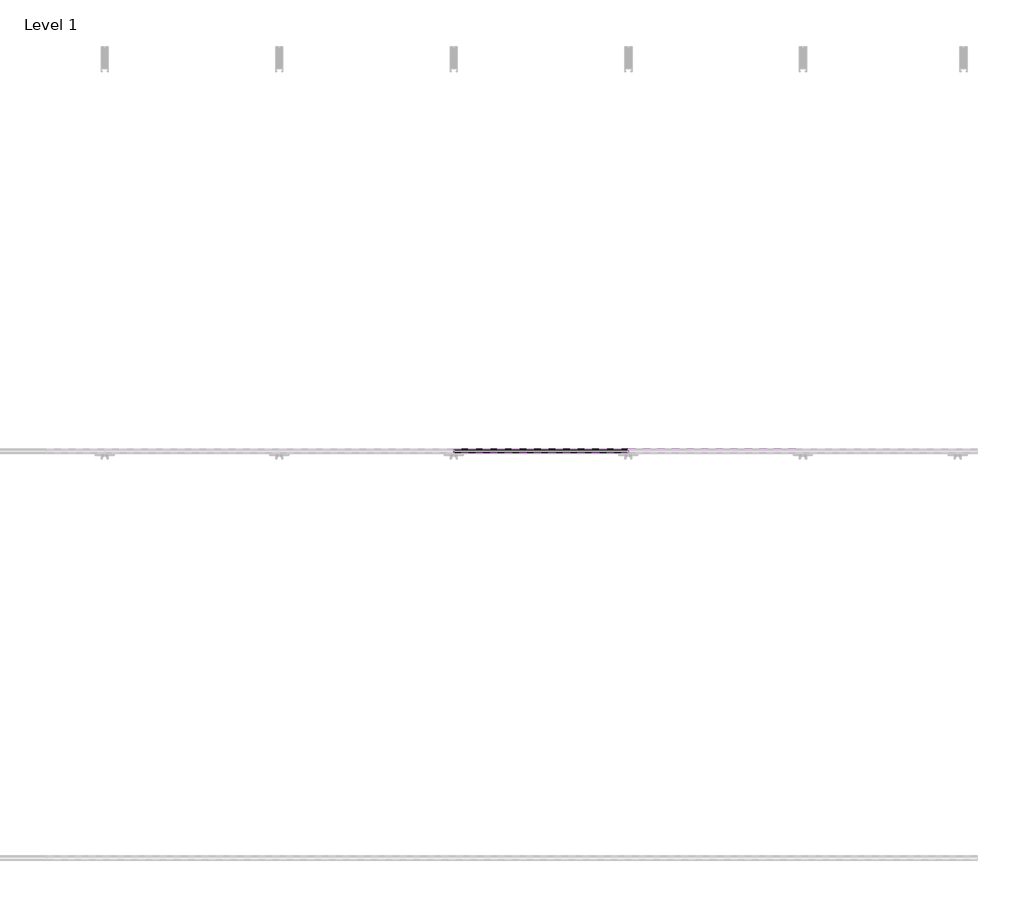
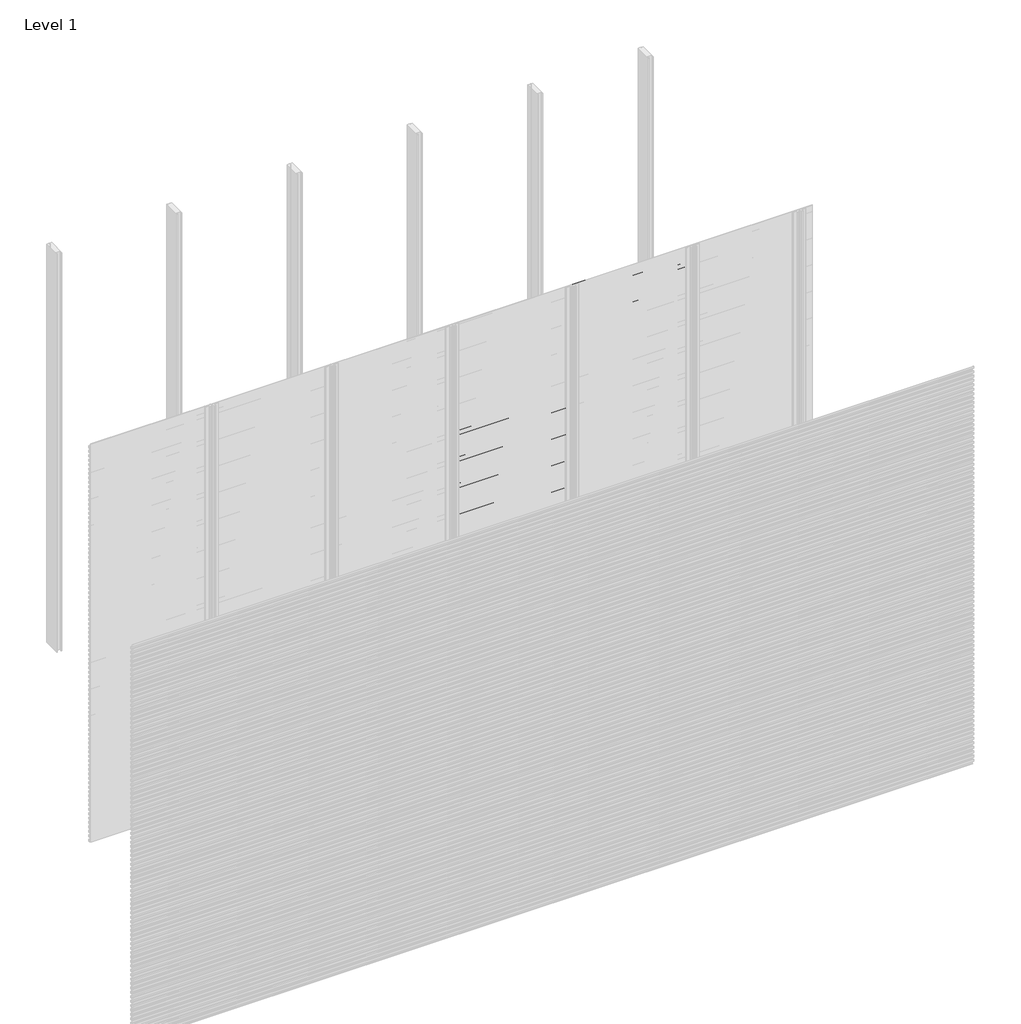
# One storey, part 10 of 96: 77 proxies.
"""IFC4 building model written with IfcOpenShell, lengths in millimetres."""

from ifc_helpers import new_model, si_unit, frame, origin, place, context, project, spatial, polyline, outline, extrude, element, save

model = new_model("IFC4")

# Units and contexts
model_context = context("Model", 3, world=origin())
ifc_project = project(units=[si_unit("LENGTHUNIT", "METRE", prefix="MILLI")], contexts=[model_context])

# Site, building, storey
site = spatial("IfcSite", under=ifc_project)
building = spatial("IfcBuilding", under=site)
storey = spatial("IfcBuildingStorey", under=building, Name="Level 1", Elevation=0.0)

# Proxies
placement = place(None, origin())
element("IfcBuildingElementProxy", 1, Name="Wall Sweeps", at=placement, inside=storey, context=model_context, shape_type="SweptSolid", body=[
    extrude(outline(polyline([(-53977.6, 2239.1655033), (-53977.6, 2224.8779188), (-53982.4114965, 2222.1), (-53982.4114965, 2223.3701706), (-53978.85, 2225.4264016), (-53978.85, 2238.4437382), (-53998.0, 2249.5000799), (-53998.0, 2264.4), (-53996.75, 2264.4), (-53996.75, 2250.2217609), (-53977.6, 2239.1655033)])), frame((3428.5714286, 0.0, 0.0), z_axis=(1.0, 0.0, 0.0), x_axis=(0.0, 1.0, 0.0)), (0.0, 0.0, 1.0), 857.1428571),
])
element("IfcBuildingElementProxy", 2, Name="Wall Sweeps", at=placement, inside=storey, context=model_context, shape_type="SweptSolid", body=[
    extrude(outline(polyline([(-53977.6, 2205.8655033), (-53977.6, 2191.5779188), (-53982.4114965, 2188.8), (-53982.4114965, 2190.0701706), (-53978.85, 2192.1264016), (-53978.85, 2205.1437382), (-53998.0, 2216.2000799), (-53998.0, 2231.1), (-53996.75, 2231.1), (-53996.75, 2216.9217609), (-53977.6, 2205.8655033)])), frame((3428.5714286, 0.0, 0.0), z_axis=(1.0, 0.0, 0.0), x_axis=(0.0, 1.0, 0.0)), (0.0, 0.0, 1.0), 857.1428571),
])
element("IfcBuildingElementProxy", 3, Name="Wall Sweeps", at=placement, inside=storey, context=model_context, shape_type="SweptSolid", body=[
    extrude(outline(polyline([(-53977.6, 2172.5655033), (-53977.6, 2158.2779188), (-53982.4114965, 2155.5), (-53982.4114965, 2156.7701706), (-53978.85, 2158.8264016), (-53978.85, 2171.8437382), (-53998.0, 2182.9000799), (-53998.0, 2197.8), (-53996.75, 2197.8), (-53996.75, 2183.6217609), (-53977.6, 2172.5655033)])), frame((3428.5714286, 0.0, 0.0), z_axis=(1.0, 0.0, 0.0), x_axis=(0.0, 1.0, 0.0)), (0.0, 0.0, 1.0), 857.1428571),
])
element("IfcBuildingElementProxy", 4, Name="Wall Sweeps", at=placement, inside=storey, context=model_context, shape_type="SweptSolid", body=[
    extrude(outline(polyline([(-53977.6, 2139.2655033), (-53977.6, 2124.9779188), (-53982.4114965, 2122.2), (-53982.4114965, 2123.4701706), (-53978.85, 2125.5264016), (-53978.85, 2138.5437382), (-53998.0, 2149.6000799), (-53998.0, 2164.5), (-53996.75, 2164.5), (-53996.75, 2150.3217609), (-53977.6, 2139.2655033)])), frame((3428.5714286, 0.0, 0.0), z_axis=(1.0, 0.0, 0.0), x_axis=(0.0, 1.0, 0.0)), (0.0, 0.0, 1.0), 857.1428571),
])
element("IfcBuildingElementProxy", 5, Name="Wall Sweeps", at=placement, inside=storey, context=model_context, shape_type="SweptSolid", body=[
    extrude(outline(polyline([(-53977.6, 2105.9655033), (-53977.6, 2091.6779188), (-53982.4114965, 2088.9), (-53982.4114965, 2090.1701706), (-53978.85, 2092.2264016), (-53978.85, 2105.2437382), (-53998.0, 2116.3000799), (-53998.0, 2131.2), (-53996.75, 2131.2), (-53996.75, 2117.0217609), (-53977.6, 2105.9655033)])), frame((3428.5714286, 0.0, 0.0), z_axis=(1.0, 0.0, 0.0), x_axis=(0.0, 1.0, 0.0)), (0.0, 0.0, 1.0), 857.1428571),
])
element("IfcBuildingElementProxy", 6, Name="Wall Sweeps", at=placement, inside=storey, context=model_context, shape_type="SweptSolid", body=[
    extrude(outline(polyline([(-53977.6, 2072.6655033), (-53977.6, 2058.3779188), (-53982.4114965, 2055.6), (-53982.4114965, 2056.8701706), (-53978.85, 2058.9264016), (-53978.85, 2071.9437382), (-53998.0, 2083.0000799), (-53998.0, 2097.9), (-53996.75, 2097.9), (-53996.75, 2083.7217609), (-53977.6, 2072.6655033)])), frame((3428.5714286, 0.0, 0.0), z_axis=(1.0, 0.0, 0.0), x_axis=(0.0, 1.0, 0.0)), (0.0, 0.0, 1.0), 857.1428571),
])
element("IfcBuildingElementProxy", 7, Name="Wall Sweeps", at=placement, inside=storey, context=model_context, shape_type="SweptSolid", body=[
    extrude(outline(polyline([(-53977.6, 2039.3655033), (-53977.6, 2025.0779188), (-53982.4114965, 2022.3), (-53982.4114965, 2023.5701706), (-53978.85, 2025.6264016), (-53978.85, 2038.6437382), (-53998.0, 2049.7000799), (-53998.0, 2064.6), (-53996.75, 2064.6), (-53996.75, 2050.4217609), (-53977.6, 2039.3655033)])), frame((3428.5714286, 0.0, 0.0), z_axis=(1.0, 0.0, 0.0), x_axis=(0.0, 1.0, 0.0)), (0.0, 0.0, 1.0), 857.1428571),
])
element("IfcBuildingElementProxy", 8, Name="Wall Sweeps", at=placement, inside=storey, context=model_context, shape_type="SweptSolid", body=[
    extrude(outline(polyline([(-53977.6, 2006.0655033), (-53977.6, 1991.7779188), (-53982.4114965, 1989.0), (-53982.4114965, 1990.2701706), (-53978.85, 1992.3264016), (-53978.85, 2005.3437382), (-53998.0, 2016.4000799), (-53998.0, 2031.3), (-53996.75, 2031.3), (-53996.75, 2017.1217609), (-53977.6, 2006.0655033)])), frame((3428.5714286, 0.0, 0.0), z_axis=(1.0, 0.0, 0.0), x_axis=(0.0, 1.0, 0.0)), (0.0, 0.0, 1.0), 857.1428571),
])
element("IfcBuildingElementProxy", 9, Name="Wall Sweeps", at=placement, inside=storey, context=model_context, shape_type="SweptSolid", body=[
    extrude(outline(polyline([(-53977.6, 1972.7655033), (-53977.6, 1958.4779188), (-53982.4114965, 1955.7), (-53982.4114965, 1956.9701706), (-53978.85, 1959.0264016), (-53978.85, 1972.0437382), (-53998.0, 1983.1000799), (-53998.0, 1998.0), (-53996.75, 1998.0), (-53996.75, 1983.8217609), (-53977.6, 1972.7655033)])), frame((3428.5714286, 0.0, 0.0), z_axis=(1.0, 0.0, 0.0), x_axis=(0.0, 1.0, 0.0)), (0.0, 0.0, 1.0), 857.1428571),
])
element("IfcBuildingElementProxy", 10, Name="Wall Sweeps", at=placement, inside=storey, context=model_context, shape_type="SweptSolid", body=[
    extrude(outline(polyline([(-53977.6, 1939.4655033), (-53977.6, 1925.1779188), (-53982.4114965, 1922.4), (-53982.4114965, 1923.6701706), (-53978.85, 1925.7264016), (-53978.85, 1938.7437382), (-53998.0, 1949.8000799), (-53998.0, 1964.7), (-53996.75, 1964.7), (-53996.75, 1950.5217609), (-53977.6, 1939.4655033)])), frame((3428.5714286, 0.0, 0.0), z_axis=(1.0, 0.0, 0.0), x_axis=(0.0, 1.0, 0.0)), (0.0, 0.0, 1.0), 857.1428571),
])
element("IfcBuildingElementProxy", 11, Name="Wall Sweeps", at=placement, inside=storey, context=model_context, shape_type="SweptSolid", body=[
    extrude(outline(polyline([(-53977.6, 1906.1655033), (-53977.6, 1891.8779188), (-53982.4114965, 1889.1), (-53982.4114965, 1890.3701706), (-53978.85, 1892.4264016), (-53978.85, 1905.4437382), (-53998.0, 1916.5000799), (-53998.0, 1931.4), (-53996.75, 1931.4), (-53996.75, 1917.2217609), (-53977.6, 1906.1655033)])), frame((3428.5714286, 0.0, 0.0), z_axis=(1.0, 0.0, 0.0), x_axis=(0.0, 1.0, 0.0)), (0.0, 0.0, 1.0), 857.1428571),
])
element("IfcBuildingElementProxy", 12, Name="Wall Sweeps", at=placement, inside=storey, context=model_context, shape_type="SweptSolid", body=[
    extrude(outline(polyline([(-53977.6, 1872.8655033), (-53977.6, 1858.5779188), (-53982.4114965, 1855.8), (-53982.4114965, 1857.0701706), (-53978.85, 1859.1264016), (-53978.85, 1872.1437382), (-53998.0, 1883.2000799), (-53998.0, 1898.1), (-53996.75, 1898.1), (-53996.75, 1883.9217609), (-53977.6, 1872.8655033)])), frame((3428.5714286, 0.0, 0.0), z_axis=(1.0, 0.0, 0.0), x_axis=(0.0, 1.0, 0.0)), (0.0, 0.0, 1.0), 857.1428571),
])
element("IfcBuildingElementProxy", 13, Name="Wall Sweeps", at=placement, inside=storey, context=model_context, shape_type="SweptSolid", body=[
    extrude(outline(polyline([(-53977.6, 1839.5655033), (-53977.6, 1825.2779188), (-53982.4114965, 1822.5), (-53982.4114965, 1823.7701706), (-53978.85, 1825.8264016), (-53978.85, 1838.8437382), (-53998.0, 1849.9000799), (-53998.0, 1864.8), (-53996.75, 1864.8), (-53996.75, 1850.6217609), (-53977.6, 1839.5655033)])), frame((3428.5714286, 0.0, 0.0), z_axis=(1.0, 0.0, 0.0), x_axis=(0.0, 1.0, 0.0)), (0.0, 0.0, 1.0), 857.1428571),
])
element("IfcBuildingElementProxy", 14, Name="Wall Sweeps", at=placement, inside=storey, context=model_context, shape_type="SweptSolid", body=[
    extrude(outline(polyline([(-53977.6, 1806.2655033), (-53977.6, 1791.9779188), (-53982.4114965, 1789.2), (-53982.4114965, 1790.4701706), (-53978.85, 1792.5264016), (-53978.85, 1805.5437382), (-53998.0, 1816.6000799), (-53998.0, 1831.5), (-53996.75, 1831.5), (-53996.75, 1817.3217609), (-53977.6, 1806.2655033)])), frame((3428.5714286, 0.0, 0.0), z_axis=(1.0, 0.0, 0.0), x_axis=(0.0, 1.0, 0.0)), (0.0, 0.0, 1.0), 857.1428571),
])
element("IfcBuildingElementProxy", 15, Name="Wall Sweeps", at=placement, inside=storey, context=model_context, shape_type="SweptSolid", body=[
    extrude(outline(polyline([(-53977.6, 1772.9655033), (-53977.6, 1758.6779188), (-53982.4114965, 1755.9), (-53982.4114965, 1757.1701706), (-53978.85, 1759.2264016), (-53978.85, 1772.2437382), (-53998.0, 1783.3000799), (-53998.0, 1798.2), (-53996.75, 1798.2), (-53996.75, 1784.0217609), (-53977.6, 1772.9655033)])), frame((3428.5714286, 0.0, 0.0), z_axis=(1.0, 0.0, 0.0), x_axis=(0.0, 1.0, 0.0)), (0.0, 0.0, 1.0), 857.1428571),
])
element("IfcBuildingElementProxy", 16, Name="Wall Sweeps", at=placement, inside=storey, context=model_context, shape_type="SweptSolid", body=[
    extrude(outline(polyline([(-53977.6, 1739.6655033), (-53977.6, 1725.3779188), (-53982.4114965, 1722.6), (-53982.4114965, 1723.8701706), (-53978.85, 1725.9264016), (-53978.85, 1738.9437382), (-53998.0, 1750.0000799), (-53998.0, 1764.9), (-53996.75, 1764.9), (-53996.75, 1750.7217609), (-53977.6, 1739.6655033)])), frame((3428.5714286, 0.0, 0.0), z_axis=(1.0, 0.0, 0.0), x_axis=(0.0, 1.0, 0.0)), (0.0, 0.0, 1.0), 857.1428571),
])
element("IfcBuildingElementProxy", 17, Name="Wall Sweeps", at=placement, inside=storey, context=model_context, shape_type="SweptSolid", body=[
    extrude(outline(polyline([(-53977.6, 1706.3655033), (-53977.6, 1692.0779188), (-53982.4114965, 1689.3), (-53982.4114965, 1690.5701706), (-53978.85, 1692.6264016), (-53978.85, 1705.6437382), (-53998.0, 1716.7000799), (-53998.0, 1731.6), (-53996.75, 1731.6), (-53996.75, 1717.4217609), (-53977.6, 1706.3655033)])), frame((3428.5714286, 0.0, 0.0), z_axis=(1.0, 0.0, 0.0), x_axis=(0.0, 1.0, 0.0)), (0.0, 0.0, 1.0), 857.1428571),
])
element("IfcBuildingElementProxy", 18, Name="Wall Sweeps", at=placement, inside=storey, context=model_context, shape_type="SweptSolid", body=[
    extrude(outline(polyline([(-53977.6, 1673.0655033), (-53977.6, 1658.7779188), (-53982.4114965, 1656.0), (-53982.4114965, 1657.2701706), (-53978.85, 1659.3264016), (-53978.85, 1672.3437382), (-53998.0, 1683.4000799), (-53998.0, 1698.3), (-53996.75, 1698.3), (-53996.75, 1684.1217609), (-53977.6, 1673.0655033)])), frame((3428.5714286, 0.0, 0.0), z_axis=(1.0, 0.0, 0.0), x_axis=(0.0, 1.0, 0.0)), (0.0, 0.0, 1.0), 857.1428571),
])
element("IfcBuildingElementProxy", 19, Name="Wall Sweeps", at=placement, inside=storey, context=model_context, shape_type="SweptSolid", body=[
    extrude(outline(polyline([(-53977.6, 1639.7655033), (-53977.6, 1625.4779188), (-53982.4114965, 1622.7), (-53982.4114965, 1623.9701706), (-53978.85, 1626.0264016), (-53978.85, 1639.0437382), (-53998.0, 1650.1000799), (-53998.0, 1665.0), (-53996.75, 1665.0), (-53996.75, 1650.8217609), (-53977.6, 1639.7655033)])), frame((3428.5714286, 0.0, 0.0), z_axis=(1.0, 0.0, 0.0), x_axis=(0.0, 1.0, 0.0)), (0.0, 0.0, 1.0), 857.1428571),
])
element("IfcBuildingElementProxy", 20, Name="Wall Sweeps", at=placement, inside=storey, context=model_context, shape_type="SweptSolid", body=[
    extrude(outline(polyline([(-53977.6, 1606.4655033), (-53977.6, 1592.1779188), (-53982.4114965, 1589.4), (-53982.4114965, 1590.6701706), (-53978.85, 1592.7264016), (-53978.85, 1605.7437382), (-53998.0, 1616.8000799), (-53998.0, 1631.7), (-53996.75, 1631.7), (-53996.75, 1617.5217609), (-53977.6, 1606.4655033)])), frame((3428.5714286, 0.0, 0.0), z_axis=(1.0, 0.0, 0.0), x_axis=(0.0, 1.0, 0.0)), (0.0, 0.0, 1.0), 857.1428571),
])
element("IfcBuildingElementProxy", 21, Name="Wall Sweeps", at=placement, inside=storey, context=model_context, shape_type="SweptSolid", body=[
    extrude(outline(polyline([(-53977.6, 1573.1655033), (-53977.6, 1558.8779188), (-53982.4114965, 1556.1), (-53982.4114965, 1557.3701706), (-53978.85, 1559.4264016), (-53978.85, 1572.4437382), (-53998.0, 1583.5000799), (-53998.0, 1598.4), (-53996.75, 1598.4), (-53996.75, 1584.2217609), (-53977.6, 1573.1655033)])), frame((3428.5714286, 0.0, 0.0), z_axis=(1.0, 0.0, 0.0), x_axis=(0.0, 1.0, 0.0)), (0.0, 0.0, 1.0), 857.1428571),
])
element("IfcBuildingElementProxy", 22, Name="Wall Sweeps", at=placement, inside=storey, context=model_context, shape_type="SweptSolid", body=[
    extrude(outline(polyline([(-53977.6, 1539.8655033), (-53977.6, 1525.5779188), (-53982.4114965, 1522.8), (-53982.4114965, 1524.0701706), (-53978.85, 1526.1264016), (-53978.85, 1539.1437382), (-53998.0, 1550.2000799), (-53998.0, 1565.1), (-53996.75, 1565.1), (-53996.75, 1550.9217609), (-53977.6, 1539.8655033)])), frame((3428.5714286, 0.0, 0.0), z_axis=(1.0, 0.0, 0.0), x_axis=(0.0, 1.0, 0.0)), (0.0, 0.0, 1.0), 857.1428571),
])
element("IfcBuildingElementProxy", 23, Name="Wall Sweeps", at=placement, inside=storey, context=model_context, shape_type="SweptSolid", body=[
    extrude(outline(polyline([(-53977.6, 1506.5655033), (-53977.6, 1492.2779188), (-53982.4114965, 1489.5), (-53982.4114965, 1490.7701706), (-53978.85, 1492.8264016), (-53978.85, 1505.8437382), (-53998.0, 1516.9000799), (-53998.0, 1531.8), (-53996.75, 1531.8), (-53996.75, 1517.6217609), (-53977.6, 1506.5655033)])), frame((3428.5714286, 0.0, 0.0), z_axis=(1.0, 0.0, 0.0), x_axis=(0.0, 1.0, 0.0)), (0.0, 0.0, 1.0), 857.1428571),
])
element("IfcBuildingElementProxy", 24, Name="Wall Sweeps", at=placement, inside=storey, context=model_context, shape_type="SweptSolid", body=[
    extrude(outline(polyline([(-53977.6, 1473.2655033), (-53977.6, 1458.9779188), (-53982.4114965, 1456.2), (-53982.4114965, 1457.4701706), (-53978.85, 1459.5264016), (-53978.85, 1472.5437382), (-53998.0, 1483.6000799), (-53998.0, 1498.5), (-53996.75, 1498.5), (-53996.75, 1484.3217609), (-53977.6, 1473.2655033)])), frame((3428.5714286, 0.0, 0.0), z_axis=(1.0, 0.0, 0.0), x_axis=(0.0, 1.0, 0.0)), (0.0, 0.0, 1.0), 857.1428571),
])
element("IfcBuildingElementProxy", 25, Name="Wall Sweeps", at=placement, inside=storey, context=model_context, shape_type="SweptSolid", body=[
    extrude(outline(polyline([(-53977.6, 1439.9655033), (-53977.6, 1425.6779188), (-53982.4114965, 1422.9), (-53982.4114965, 1424.1701706), (-53978.85, 1426.2264016), (-53978.85, 1439.2437382), (-53998.0, 1450.3000799), (-53998.0, 1465.2), (-53996.75, 1465.2), (-53996.75, 1451.0217609), (-53977.6, 1439.9655033)])), frame((3428.5714286, 0.0, 0.0), z_axis=(1.0, 0.0, 0.0), x_axis=(0.0, 1.0, 0.0)), (0.0, 0.0, 1.0), 857.1428571),
])
element("IfcBuildingElementProxy", 26, Name="Wall Sweeps", at=placement, inside=storey, context=model_context, shape_type="SweptSolid", body=[
    extrude(outline(polyline([(-53977.6, 1406.6655033), (-53977.6, 1392.3779188), (-53982.4114965, 1389.6), (-53982.4114965, 1390.8701706), (-53978.85, 1392.9264016), (-53978.85, 1405.9437382), (-53998.0, 1417.0000799), (-53998.0, 1431.9), (-53996.75, 1431.9), (-53996.75, 1417.7217609), (-53977.6, 1406.6655033)])), frame((3428.5714286, 0.0, 0.0), z_axis=(1.0, 0.0, 0.0), x_axis=(0.0, 1.0, 0.0)), (0.0, 0.0, 1.0), 857.1428571),
])
element("IfcBuildingElementProxy", 27, Name="Wall Sweeps", at=placement, inside=storey, context=model_context, shape_type="SweptSolid", body=[
    extrude(outline(polyline([(-53977.6, 1373.3655033), (-53977.6, 1359.0779188), (-53982.4114965, 1356.3), (-53982.4114965, 1357.5701706), (-53978.85, 1359.6264016), (-53978.85, 1372.6437382), (-53998.0, 1383.7000799), (-53998.0, 1398.6), (-53996.75, 1398.6), (-53996.75, 1384.4217609), (-53977.6, 1373.3655033)])), frame((3428.5714286, 0.0, 0.0), z_axis=(1.0, 0.0, 0.0), x_axis=(0.0, 1.0, 0.0)), (0.0, 0.0, 1.0), 857.1428571),
])
element("IfcBuildingElementProxy", 28, Name="Wall Sweeps", at=placement, inside=storey, context=model_context, shape_type="SweptSolid", body=[
    extrude(outline(polyline([(-53977.6, 1340.0655033), (-53977.6, 1325.7779188), (-53982.4114965, 1323.0), (-53982.4114965, 1324.2701706), (-53978.85, 1326.3264016), (-53978.85, 1339.3437382), (-53998.0, 1350.4000799), (-53998.0, 1365.3), (-53996.75, 1365.3), (-53996.75, 1351.1217609), (-53977.6, 1340.0655033)])), frame((3428.5714286, 0.0, 0.0), z_axis=(1.0, 0.0, 0.0), x_axis=(0.0, 1.0, 0.0)), (0.0, 0.0, 1.0), 857.1428571),
])
element("IfcBuildingElementProxy", 29, Name="Wall Sweeps", at=placement, inside=storey, context=model_context, shape_type="SweptSolid", body=[
    extrude(outline(polyline([(-53977.6, 1306.7655033), (-53977.6, 1292.4779188), (-53982.4114965, 1289.7), (-53982.4114965, 1290.9701706), (-53978.85, 1293.0264016), (-53978.85, 1306.0437382), (-53998.0, 1317.1000799), (-53998.0, 1332.0), (-53996.75, 1332.0), (-53996.75, 1317.8217609), (-53977.6, 1306.7655033)])), frame((3428.5714286, 0.0, 0.0), z_axis=(1.0, 0.0, 0.0), x_axis=(0.0, 1.0, 0.0)), (0.0, 0.0, 1.0), 857.1428571),
])
element("IfcBuildingElementProxy", 30, Name="Wall Sweeps", at=placement, inside=storey, context=model_context, shape_type="SweptSolid", body=[
    extrude(outline(polyline([(-53977.6, 1273.4655033), (-53977.6, 1259.1779188), (-53982.4114965, 1256.4), (-53982.4114965, 1257.6701706), (-53978.85, 1259.7264016), (-53978.85, 1272.7437382), (-53998.0, 1283.8000799), (-53998.0, 1298.7), (-53996.75, 1298.7), (-53996.75, 1284.5217609), (-53977.6, 1273.4655033)])), frame((3428.5714286, 0.0, 0.0), z_axis=(1.0, 0.0, 0.0), x_axis=(0.0, 1.0, 0.0)), (0.0, 0.0, 1.0), 857.1428571),
])
element("IfcBuildingElementProxy", 31, Name="Wall Sweeps", at=placement, inside=storey, context=model_context, shape_type="SweptSolid", body=[
    extrude(outline(polyline([(-53977.6, 1240.1655033), (-53977.6, 1225.8779188), (-53982.4114965, 1223.1), (-53982.4114965, 1224.3701706), (-53978.85, 1226.4264016), (-53978.85, 1239.4437382), (-53998.0, 1250.5000799), (-53998.0, 1265.4), (-53996.75, 1265.4), (-53996.75, 1251.2217609), (-53977.6, 1240.1655033)])), frame((3428.5714286, 0.0, 0.0), z_axis=(1.0, 0.0, 0.0), x_axis=(0.0, 1.0, 0.0)), (0.0, 0.0, 1.0), 857.1428571),
])
element("IfcBuildingElementProxy", 32, Name="Wall Sweeps", at=placement, inside=storey, context=model_context, shape_type="SweptSolid", body=[
    extrude(outline(polyline([(-53977.6, 1206.8655033), (-53977.6, 1192.5779188), (-53982.4114965, 1189.8), (-53982.4114965, 1191.0701706), (-53978.85, 1193.1264016), (-53978.85, 1206.1437382), (-53998.0, 1217.2000799), (-53998.0, 1232.1), (-53996.75, 1232.1), (-53996.75, 1217.9217609), (-53977.6, 1206.8655033)])), frame((3428.5714286, 0.0, 0.0), z_axis=(1.0, 0.0, 0.0), x_axis=(0.0, 1.0, 0.0)), (0.0, 0.0, 1.0), 857.1428571),
])
element("IfcBuildingElementProxy", 33, Name="Wall Sweeps", at=placement, inside=storey, context=model_context, shape_type="SweptSolid", body=[
    extrude(outline(polyline([(-53977.6, 1173.5655033), (-53977.6, 1159.2779188), (-53982.4114965, 1156.5), (-53982.4114965, 1157.7701706), (-53978.85, 1159.8264016), (-53978.85, 1172.8437382), (-53998.0, 1183.9000799), (-53998.0, 1198.8), (-53996.75, 1198.8), (-53996.75, 1184.6217609), (-53977.6, 1173.5655033)])), frame((3428.5714286, 0.0, 0.0), z_axis=(1.0, 0.0, 0.0), x_axis=(0.0, 1.0, 0.0)), (0.0, 0.0, 1.0), 857.1428571),
])
element("IfcBuildingElementProxy", 34, Name="Wall Sweeps", at=placement, inside=storey, context=model_context, shape_type="SweptSolid", body=[
    extrude(outline(polyline([(-53977.6, 1140.2655033), (-53977.6, 1125.9779188), (-53982.4114965, 1123.2), (-53982.4114965, 1124.4701706), (-53978.85, 1126.5264016), (-53978.85, 1139.5437382), (-53998.0, 1150.6000799), (-53998.0, 1165.5), (-53996.75, 1165.5), (-53996.75, 1151.3217609), (-53977.6, 1140.2655033)])), frame((3428.5714286, 0.0, 0.0), z_axis=(1.0, 0.0, 0.0), x_axis=(0.0, 1.0, 0.0)), (0.0, 0.0, 1.0), 857.1428571),
])
element("IfcBuildingElementProxy", 35, Name="Wall Sweeps", at=placement, inside=storey, context=model_context, shape_type="SweptSolid", body=[
    extrude(outline(polyline([(-53977.6, 1106.9655033), (-53977.6, 1092.6779188), (-53982.4114965, 1089.9), (-53982.4114965, 1091.1701706), (-53978.85, 1093.2264016), (-53978.85, 1106.2437382), (-53998.0, 1117.3000799), (-53998.0, 1132.2), (-53996.75, 1132.2), (-53996.75, 1118.0217609), (-53977.6, 1106.9655033)])), frame((3428.5714286, 0.0, 0.0), z_axis=(1.0, 0.0, 0.0), x_axis=(0.0, 1.0, 0.0)), (0.0, 0.0, 1.0), 857.1428571),
])
element("IfcBuildingElementProxy", 36, Name="Wall Sweeps", at=placement, inside=storey, context=model_context, shape_type="SweptSolid", body=[
    extrude(outline(polyline([(-53977.6, 1073.6655033), (-53977.6, 1059.3779188), (-53982.4114965, 1056.6), (-53982.4114965, 1057.8701706), (-53978.85, 1059.9264016), (-53978.85, 1072.9437382), (-53998.0, 1084.0000799), (-53998.0, 1098.9), (-53996.75, 1098.9), (-53996.75, 1084.7217609), (-53977.6, 1073.6655033)])), frame((3428.5714286, 0.0, 0.0), z_axis=(1.0, 0.0, 0.0), x_axis=(0.0, 1.0, 0.0)), (0.0, 0.0, 1.0), 857.1428571),
])
element("IfcBuildingElementProxy", 37, Name="Wall Sweeps", at=placement, inside=storey, context=model_context, shape_type="SweptSolid", body=[
    extrude(outline(polyline([(-53977.6, 1040.3655033), (-53977.6, 1026.0779188), (-53982.4114965, 1023.3), (-53982.4114965, 1024.5701706), (-53978.85, 1026.6264016), (-53978.85, 1039.6437382), (-53998.0, 1050.7000799), (-53998.0, 1065.6), (-53996.75, 1065.6), (-53996.75, 1051.4217609), (-53977.6, 1040.3655033)])), frame((3428.5714286, 0.0, 0.0), z_axis=(1.0, 0.0, 0.0), x_axis=(0.0, 1.0, 0.0)), (0.0, 0.0, 1.0), 857.1428571),
])
element("IfcBuildingElementProxy", 38, Name="Wall Sweeps", at=placement, inside=storey, context=model_context, shape_type="SweptSolid", body=[
    extrude(outline(polyline([(-53977.6, 1007.0655033), (-53977.6, 992.7779188), (-53982.4114965, 990.0), (-53982.4114965, 991.2701706), (-53978.85, 993.3264016), (-53978.85, 1006.3437382), (-53998.0, 1017.4000799), (-53998.0, 1032.3), (-53996.75, 1032.3), (-53996.75, 1018.1217609), (-53977.6, 1007.0655033)])), frame((3428.5714286, 0.0, 0.0), z_axis=(1.0, 0.0, 0.0), x_axis=(0.0, 1.0, 0.0)), (0.0, 0.0, 1.0), 857.1428571),
])
element("IfcBuildingElementProxy", 39, Name="Wall Sweeps", at=placement, inside=storey, context=model_context, shape_type="SweptSolid", body=[
    extrude(outline(polyline([(-53977.6, 973.7655033), (-53977.6, 959.4779188), (-53982.4114965, 956.7), (-53982.4114965, 957.9701706), (-53978.85, 960.0264016), (-53978.85, 973.0437382), (-53998.0, 984.1000799), (-53998.0, 999.0), (-53996.75, 999.0), (-53996.75, 984.8217609), (-53977.6, 973.7655033)])), frame((3428.5714286, 0.0, 0.0), z_axis=(1.0, 0.0, 0.0), x_axis=(0.0, 1.0, 0.0)), (0.0, 0.0, 1.0), 857.1428571),
])
element("IfcBuildingElementProxy", 40, Name="Wall Sweeps", at=placement, inside=storey, context=model_context, shape_type="SweptSolid", body=[
    extrude(outline(polyline([(-53977.6, 940.4655033), (-53977.6, 926.1779188), (-53982.4114965, 923.4), (-53982.4114965, 924.6701706), (-53978.85, 926.7264016), (-53978.85, 939.7437382), (-53998.0, 950.8000799), (-53998.0, 965.7), (-53996.75, 965.7), (-53996.75, 951.5217609), (-53977.6, 940.4655033)])), frame((3428.5714286, 0.0, 0.0), z_axis=(1.0, 0.0, 0.0), x_axis=(0.0, 1.0, 0.0)), (0.0, 0.0, 1.0), 857.1428571),
])
element("IfcBuildingElementProxy", 41, Name="Wall Sweeps", at=placement, inside=storey, context=model_context, shape_type="SweptSolid", body=[
    extrude(outline(polyline([(-53977.6, 907.1655033), (-53977.6, 892.8779188), (-53982.4114965, 890.1), (-53982.4114965, 891.3701706), (-53978.85, 893.4264016), (-53978.85, 906.4437382), (-53998.0, 917.5000799), (-53998.0, 932.4), (-53996.75, 932.4), (-53996.75, 918.2217609), (-53977.6, 907.1655033)])), frame((3428.5714286, 0.0, 0.0), z_axis=(1.0, 0.0, 0.0), x_axis=(0.0, 1.0, 0.0)), (0.0, 0.0, 1.0), 857.1428571),
])
element("IfcBuildingElementProxy", 42, Name="Wall Sweeps", at=placement, inside=storey, context=model_context, shape_type="SweptSolid", body=[
    extrude(outline(polyline([(-53977.6, 873.8655033), (-53977.6, 859.5779188), (-53982.4114965, 856.8), (-53982.4114965, 858.0701706), (-53978.85, 860.1264016), (-53978.85, 873.1437382), (-53998.0, 884.2000799), (-53998.0, 899.1), (-53996.75, 899.1), (-53996.75, 884.9217609), (-53977.6, 873.8655033)])), frame((3428.5714286, 0.0, 0.0), z_axis=(1.0, 0.0, 0.0), x_axis=(0.0, 1.0, 0.0)), (0.0, 0.0, 1.0), 857.1428571),
])
element("IfcBuildingElementProxy", 43, Name="Wall Sweeps", at=placement, inside=storey, context=model_context, shape_type="SweptSolid", body=[
    extrude(outline(polyline([(-53977.6, 840.5655033), (-53977.6, 826.2779188), (-53982.4114965, 823.5), (-53982.4114965, 824.7701706), (-53978.85, 826.8264016), (-53978.85, 839.8437382), (-53998.0, 850.9000799), (-53998.0, 865.8), (-53996.75, 865.8), (-53996.75, 851.6217609), (-53977.6, 840.5655033)])), frame((3428.5714286, 0.0, 0.0), z_axis=(1.0, 0.0, 0.0), x_axis=(0.0, 1.0, 0.0)), (0.0, 0.0, 1.0), 857.1428571),
])
element("IfcBuildingElementProxy", 44, Name="Wall Sweeps", at=placement, inside=storey, context=model_context, shape_type="SweptSolid", body=[
    extrude(outline(polyline([(-53977.6, 807.2655033), (-53977.6, 792.9779188), (-53982.4114965, 790.2), (-53982.4114965, 791.4701706), (-53978.85, 793.5264016), (-53978.85, 806.5437382), (-53998.0, 817.6000799), (-53998.0, 832.5), (-53996.75, 832.5), (-53996.75, 818.3217609), (-53977.6, 807.2655033)])), frame((3428.5714286, 0.0, 0.0), z_axis=(1.0, 0.0, 0.0), x_axis=(0.0, 1.0, 0.0)), (0.0, 0.0, 1.0), 857.1428571),
])
element("IfcBuildingElementProxy", 45, Name="Wall Sweeps", at=placement, inside=storey, context=model_context, shape_type="SweptSolid", body=[
    extrude(outline(polyline([(-53977.6, 773.9655033), (-53977.6, 759.6779188), (-53982.4114965, 756.9), (-53982.4114965, 758.1701706), (-53978.85, 760.2264016), (-53978.85, 773.2437382), (-53998.0, 784.3000799), (-53998.0, 799.2), (-53996.75, 799.2), (-53996.75, 785.0217609), (-53977.6, 773.9655033)])), frame((3428.5714286, 0.0, 0.0), z_axis=(1.0, 0.0, 0.0), x_axis=(0.0, 1.0, 0.0)), (0.0, 0.0, 1.0), 857.1428571),
])
element("IfcBuildingElementProxy", 46, Name="Wall Sweeps", at=placement, inside=storey, context=model_context, shape_type="SweptSolid", body=[
    extrude(outline(polyline([(-53977.6, 740.6655033), (-53977.6, 726.3779188), (-53982.4114965, 723.6), (-53982.4114965, 724.8701706), (-53978.85, 726.9264016), (-53978.85, 739.9437382), (-53998.0, 751.0000799), (-53998.0, 765.9), (-53996.75, 765.9), (-53996.75, 751.7217609), (-53977.6, 740.6655033)])), frame((3428.5714286, 0.0, 0.0), z_axis=(1.0, 0.0, 0.0), x_axis=(0.0, 1.0, 0.0)), (0.0, 0.0, 1.0), 857.1428571),
])
element("IfcBuildingElementProxy", 47, Name="Wall Sweeps", at=placement, inside=storey, context=model_context, shape_type="SweptSolid", body=[
    extrude(outline(polyline([(-53977.6, 707.3655033), (-53977.6, 693.0779188), (-53982.4114965, 690.3), (-53982.4114965, 691.5701706), (-53978.85, 693.6264016), (-53978.85, 706.6437382), (-53998.0, 717.7000799), (-53998.0, 732.6), (-53996.75, 732.6), (-53996.75, 718.4217609), (-53977.6, 707.3655033)])), frame((3428.5714286, 0.0, 0.0), z_axis=(1.0, 0.0, 0.0), x_axis=(0.0, 1.0, 0.0)), (0.0, 0.0, 1.0), 857.1428571),
])
element("IfcBuildingElementProxy", 48, Name="Wall Sweeps", at=placement, inside=storey, context=model_context, shape_type="SweptSolid", body=[
    extrude(outline(polyline([(-53977.6, 674.0655033), (-53977.6, 659.7779188), (-53982.4114965, 657.0), (-53982.4114965, 658.2701706), (-53978.85, 660.3264016), (-53978.85, 673.3437382), (-53998.0, 684.4000799), (-53998.0, 699.3), (-53996.75, 699.3), (-53996.75, 685.1217609), (-53977.6, 674.0655033)])), frame((3428.5714286, 0.0, 0.0), z_axis=(1.0, 0.0, 0.0), x_axis=(0.0, 1.0, 0.0)), (0.0, 0.0, 1.0), 857.1428571),
])
element("IfcBuildingElementProxy", 49, Name="Wall Sweeps", at=placement, inside=storey, context=model_context, shape_type="SweptSolid", body=[
    extrude(outline(polyline([(-53977.6, 640.7655033), (-53977.6, 626.4779188), (-53982.4114965, 623.7), (-53982.4114965, 624.9701706), (-53978.85, 627.0264016), (-53978.85, 640.0437382), (-53998.0, 651.1000799), (-53998.0, 666.0), (-53996.75, 666.0), (-53996.75, 651.8217609), (-53977.6, 640.7655033)])), frame((3428.5714286, 0.0, 0.0), z_axis=(1.0, 0.0, 0.0), x_axis=(0.0, 1.0, 0.0)), (0.0, 0.0, 1.0), 857.1428571),
])
element("IfcBuildingElementProxy", 50, Name="Wall Sweeps", at=placement, inside=storey, context=model_context, shape_type="SweptSolid", body=[
    extrude(outline(polyline([(-53977.6, 607.4655033), (-53977.6, 593.1779188), (-53982.4114965, 590.4), (-53982.4114965, 591.6701706), (-53978.85, 593.7264016), (-53978.85, 606.7437382), (-53998.0, 617.8000799), (-53998.0, 632.7), (-53996.75, 632.7), (-53996.75, 618.5217609), (-53977.6, 607.4655033)])), frame((3428.5714286, 0.0, 0.0), z_axis=(1.0, 0.0, 0.0), x_axis=(0.0, 1.0, 0.0)), (0.0, 0.0, 1.0), 857.1428571),
])
element("IfcBuildingElementProxy", 51, Name="Wall Sweeps", at=placement, inside=storey, context=model_context, shape_type="SweptSolid", body=[
    extrude(outline(polyline([(-53977.6, 574.1655033), (-53977.6, 559.8779188), (-53982.4114965, 557.1), (-53982.4114965, 558.3701706), (-53978.85, 560.4264016), (-53978.85, 573.4437382), (-53998.0, 584.5000799), (-53998.0, 599.4), (-53996.75, 599.4), (-53996.75, 585.2217609), (-53977.6, 574.1655033)])), frame((3428.5714286, 0.0, 0.0), z_axis=(1.0, 0.0, 0.0), x_axis=(0.0, 1.0, 0.0)), (0.0, 0.0, 1.0), 857.1428571),
])
element("IfcBuildingElementProxy", 52, Name="Wall Sweeps", at=placement, inside=storey, context=model_context, shape_type="SweptSolid", body=[
    extrude(outline(polyline([(-53977.6, 540.8655033), (-53977.6, 526.5779188), (-53982.4114965, 523.8), (-53982.4114965, 525.0701706), (-53978.85, 527.1264016), (-53978.85, 540.1437382), (-53998.0, 551.2000799), (-53998.0, 566.1), (-53996.75, 566.1), (-53996.75, 551.9217609), (-53977.6, 540.8655033)])), frame((3428.5714286, 0.0, 0.0), z_axis=(1.0, 0.0, 0.0), x_axis=(0.0, 1.0, 0.0)), (0.0, 0.0, 1.0), 857.1428571),
])
element("IfcBuildingElementProxy", 53, Name="Wall Sweeps", at=placement, inside=storey, context=model_context, shape_type="SweptSolid", body=[
    extrude(outline(polyline([(-53977.6, 507.5655033), (-53977.6, 493.2779188), (-53982.4114965, 490.5), (-53982.4114965, 491.7701706), (-53978.85, 493.8264016), (-53978.85, 506.8437382), (-53998.0, 517.9000799), (-53998.0, 532.8), (-53996.75, 532.8), (-53996.75, 518.6217609), (-53977.6, 507.5655033)])), frame((3428.5714286, 0.0, 0.0), z_axis=(1.0, 0.0, 0.0), x_axis=(0.0, 1.0, 0.0)), (0.0, 0.0, 1.0), 857.1428571),
])
element("IfcBuildingElementProxy", 54, Name="Wall Sweeps", at=placement, inside=storey, context=model_context, shape_type="SweptSolid", body=[
    extrude(outline(polyline([(-53977.6, 474.2655033), (-53977.6, 459.9779188), (-53982.4114965, 457.2), (-53982.4114965, 458.4701706), (-53978.85, 460.5264016), (-53978.85, 473.5437382), (-53998.0, 484.6000799), (-53998.0, 499.5), (-53996.75, 499.5), (-53996.75, 485.3217609), (-53977.6, 474.2655033)])), frame((3428.5714286, 0.0, 0.0), z_axis=(1.0, 0.0, 0.0), x_axis=(0.0, 1.0, 0.0)), (0.0, 0.0, 1.0), 857.1428571),
])
element("IfcBuildingElementProxy", 55, Name="Wall Sweeps", at=placement, inside=storey, context=model_context, shape_type="SweptSolid", body=[
    extrude(outline(polyline([(-53977.6, 440.9655033), (-53977.6, 426.6779188), (-53982.4114965, 423.9), (-53982.4114965, 425.1701706), (-53978.85, 427.2264016), (-53978.85, 440.2437382), (-53998.0, 451.3000799), (-53998.0, 466.2), (-53996.75, 466.2), (-53996.75, 452.0217609), (-53977.6, 440.9655033)])), frame((3428.5714286, 0.0, 0.0), z_axis=(1.0, 0.0, 0.0), x_axis=(0.0, 1.0, 0.0)), (0.0, 0.0, 1.0), 857.1428571),
])
element("IfcBuildingElementProxy", 56, Name="Wall Sweeps", at=placement, inside=storey, context=model_context, shape_type="SweptSolid", body=[
    extrude(outline(polyline([(-53977.6, 407.6655033), (-53977.6, 393.3779188), (-53982.4114965, 390.6), (-53982.4114965, 391.8701706), (-53978.85, 393.9264016), (-53978.85, 406.9437382), (-53998.0, 418.0000799), (-53998.0, 432.9), (-53996.75, 432.9), (-53996.75, 418.7217609), (-53977.6, 407.6655033)])), frame((3428.5714286, 0.0, 0.0), z_axis=(1.0, 0.0, 0.0), x_axis=(0.0, 1.0, 0.0)), (0.0, 0.0, 1.0), 857.1428571),
])
element("IfcBuildingElementProxy", 57, Name="Wall Sweeps", at=placement, inside=storey, context=model_context, shape_type="SweptSolid", body=[
    extrude(outline(polyline([(-53977.6, 374.3655033), (-53977.6, 360.0779188), (-53982.4114965, 357.3), (-53982.4114965, 358.5701706), (-53978.85, 360.6264016), (-53978.85, 373.6437382), (-53998.0, 384.7000799), (-53998.0, 399.6), (-53996.75, 399.6), (-53996.75, 385.4217609), (-53977.6, 374.3655033)])), frame((3428.5714286, 0.0, 0.0), z_axis=(1.0, 0.0, 0.0), x_axis=(0.0, 1.0, 0.0)), (0.0, 0.0, 1.0), 857.1428571),
])
element("IfcBuildingElementProxy", 58, Name="Wall Sweeps", at=placement, inside=storey, context=model_context, shape_type="SweptSolid", body=[
    extrude(outline(polyline([(-53977.6, 341.0655033), (-53977.6, 326.7779188), (-53982.4114965, 324.0), (-53982.4114965, 325.2701706), (-53978.85, 327.3264016), (-53978.85, 340.3437382), (-53998.0, 351.4000799), (-53998.0, 366.3), (-53996.75, 366.3), (-53996.75, 352.1217609), (-53977.6, 341.0655033)])), frame((3428.5714286, 0.0, 0.0), z_axis=(1.0, 0.0, 0.0), x_axis=(0.0, 1.0, 0.0)), (0.0, 0.0, 1.0), 857.1428571),
])
element("IfcBuildingElementProxy", 59, Name="Wall Sweeps", at=placement, inside=storey, context=model_context, shape_type="SweptSolid", body=[
    extrude(outline(polyline([(-53977.6, 307.7655033), (-53977.6, 293.4779188), (-53982.4114965, 290.7), (-53982.4114965, 291.9701706), (-53978.85, 294.0264016), (-53978.85, 307.0437382), (-53998.0, 318.1000799), (-53998.0, 333.0), (-53996.75, 333.0), (-53996.75, 318.8217609), (-53977.6, 307.7655033)])), frame((3428.5714286, 0.0, 0.0), z_axis=(1.0, 0.0, 0.0), x_axis=(0.0, 1.0, 0.0)), (0.0, 0.0, 1.0), 857.1428571),
])
element("IfcBuildingElementProxy", 60, Name="Wall Sweeps", at=placement, inside=storey, context=model_context, shape_type="SweptSolid", body=[
    extrude(outline(polyline([(-53977.6, 274.4655033), (-53977.6, 260.1779188), (-53982.4114965, 257.4), (-53982.4114965, 258.6701706), (-53978.85, 260.7264016), (-53978.85, 273.7437382), (-53998.0, 284.8000799), (-53998.0, 299.7), (-53996.75, 299.7), (-53996.75, 285.5217609), (-53977.6, 274.4655033)])), frame((3428.5714286, 0.0, 0.0), z_axis=(1.0, 0.0, 0.0), x_axis=(0.0, 1.0, 0.0)), (0.0, 0.0, 1.0), 857.1428571),
])
element("IfcBuildingElementProxy", 61, Name="Wall Sweeps", at=placement, inside=storey, context=model_context, shape_type="SweptSolid", body=[
    extrude(outline(polyline([(-53977.6, 241.1655033), (-53977.6, 226.8779188), (-53982.4114965, 224.1), (-53982.4114965, 225.3701706), (-53978.85, 227.4264016), (-53978.85, 240.4437382), (-53998.0, 251.5000799), (-53998.0, 266.4), (-53996.75, 266.4), (-53996.75, 252.2217609), (-53977.6, 241.1655033)])), frame((3428.5714286, 0.0, 0.0), z_axis=(1.0, 0.0, 0.0), x_axis=(0.0, 1.0, 0.0)), (0.0, 0.0, 1.0), 857.1428571),
])
element("IfcBuildingElementProxy", 62, Name="Wall Sweeps", at=placement, inside=storey, context=model_context, shape_type="SweptSolid", body=[
    extrude(outline(polyline([(-53977.6, 207.8655033), (-53977.6, 193.5779188), (-53982.4114965, 190.8), (-53982.4114965, 192.0701706), (-53978.85, 194.1264016), (-53978.85, 207.1437382), (-53998.0, 218.2000799), (-53998.0, 233.1), (-53996.75, 233.1), (-53996.75, 218.9217609), (-53977.6, 207.8655033)])), frame((3428.5714286, 0.0, 0.0), z_axis=(1.0, 0.0, 0.0), x_axis=(0.0, 1.0, 0.0)), (0.0, 0.0, 1.0), 857.1428571),
])
element("IfcBuildingElementProxy", 63, Name="Wall Sweeps", at=placement, inside=storey, context=model_context, shape_type="SweptSolid", body=[
    extrude(outline(polyline([(-53977.6, 174.5655033), (-53977.6, 160.2779188), (-53982.4114965, 157.5), (-53982.4114965, 158.7701706), (-53978.85, 160.8264016), (-53978.85, 173.8437382), (-53998.0, 184.9000799), (-53998.0, 199.8), (-53996.75, 199.8), (-53996.75, 185.6217609), (-53977.6, 174.5655033)])), frame((3428.5714286, 0.0, 0.0), z_axis=(1.0, 0.0, 0.0), x_axis=(0.0, 1.0, 0.0)), (0.0, 0.0, 1.0), 857.1428571),
])
element("IfcBuildingElementProxy", 64, Name="Wall Sweeps", at=placement, inside=storey, context=model_context, shape_type="SweptSolid", body=[
    extrude(outline(polyline([(-53977.6, 141.2655033), (-53977.6, 126.9779188), (-53982.4114965, 124.2), (-53982.4114965, 125.4701706), (-53978.85, 127.5264016), (-53978.85, 140.5437382), (-53998.0, 151.6000799), (-53998.0, 166.5), (-53996.75, 166.5), (-53996.75, 152.3217609), (-53977.6, 141.2655033)])), frame((3428.5714286, 0.0, 0.0), z_axis=(1.0, 0.0, 0.0), x_axis=(0.0, 1.0, 0.0)), (0.0, 0.0, 1.0), 857.1428571),
])
element("IfcBuildingElementProxy", 65, Name="Wall Sweeps", at=placement, inside=storey, context=model_context, shape_type="SweptSolid", body=[
    extrude(outline(polyline([(-53977.6, 107.9655033), (-53977.6, 93.6779188), (-53982.4114965, 90.9), (-53982.4114965, 92.1701706), (-53978.85, 94.2264016), (-53978.85, 107.2437382), (-53998.0, 118.3000799), (-53998.0, 133.2), (-53996.75, 133.2), (-53996.75, 119.0217609), (-53977.6, 107.9655033)])), frame((3428.5714286, 0.0, 0.0), z_axis=(1.0, 0.0, 0.0), x_axis=(0.0, 1.0, 0.0)), (0.0, 0.0, 1.0), 857.1428571),
])
element("IfcBuildingElementProxy", 66, Name="Wall Sweeps", at=placement, inside=storey, context=model_context, shape_type="SweptSolid", body=[
    extrude(outline(polyline([(-53977.6, 74.6655033), (-53977.6, 60.3779188), (-53982.4114965, 57.6), (-53982.4114965, 58.8701706), (-53978.85, 60.9264016), (-53978.85, 73.9437382), (-53998.0, 85.0000799), (-53998.0, 99.9), (-53996.75, 99.9), (-53996.75, 85.7217609), (-53977.6, 74.6655033)])), frame((3428.5714286, 0.0, 0.0), z_axis=(1.0, 0.0, 0.0), x_axis=(0.0, 1.0, 0.0)), (0.0, 0.0, 1.0), 857.1428571),
])
element("IfcBuildingElementProxy", 67, Name="Wall Sweeps", at=placement, inside=storey, context=model_context, shape_type="SweptSolid", body=[
    extrude(outline(polyline([(-53977.6, 41.3655033), (-53977.6, 27.0779188), (-53982.4114965, 24.3), (-53982.4114965, 25.5701706), (-53978.85, 27.6264016), (-53978.85, 40.6437382), (-53998.0, 51.7000799), (-53998.0, 66.6), (-53996.75, 66.6), (-53996.75, 52.4217609), (-53977.6, 41.3655033)])), frame((3428.5714286, 0.0, 0.0), z_axis=(1.0, 0.0, 0.0), x_axis=(0.0, 1.0, 0.0)), (0.0, 0.0, 1.0), 857.1428571),
])
element("IfcBuildingElementProxy", 68, Name="Wall Sweeps", at=placement, inside=storey, context=model_context, shape_type="SweptSolid", body=[
    extrude(outline(polyline([(-53977.6, 8.0655033), (-53977.6, -6.2220812), (-53982.4114965, -9.0), (-53982.4114965, -7.7298294), (-53978.85, -5.6735984), (-53978.85, 7.3437382), (-53998.0, 18.4000799), (-53998.0, 33.3), (-53996.75, 33.3), (-53996.75, 19.1217609), (-53977.6, 8.0655033)])), frame((3428.5714286, 0.0, 0.0), z_axis=(1.0, 0.0, 0.0), x_axis=(0.0, 1.0, 0.0)), (0.0, 0.0, 1.0), 857.1428571),
])
element("IfcBuildingElementProxy", 69, Name="Wall Sweeps", at=placement, inside=storey, context=model_context, shape_type="SweptSolid", body=[
    extrude(outline(polyline([(-53977.6, 2971.7655033), (-53977.6, 2957.4779188), (-53982.4114965, 2954.7), (-53982.4114965, 2955.9701706), (-53978.85, 2958.0264016), (-53978.85, 2971.0437382), (-53998.0, 2982.1000799), (-53998.0, 2997.0), (-53996.75, 2997.0), (-53996.75, 2982.8217609), (-53977.6, 2971.7655033)])), frame((4285.7142857, 0.0, 0.0), z_axis=(1.0, 0.0, 0.0), x_axis=(0.0, 1.0, 0.0)), (0.0, 0.0, 1.0), 857.1428571),
])
element("IfcBuildingElementProxy", 70, Name="Wall Sweeps", at=placement, inside=storey, context=model_context, shape_type="SweptSolid", body=[
    extrude(outline(polyline([(-53977.6, 2938.4655033), (-53977.6, 2924.1779188), (-53982.4114965, 2921.4), (-53982.4114965, 2922.6701706), (-53978.85, 2924.7264016), (-53978.85, 2937.7437382), (-53998.0, 2948.8000799), (-53998.0, 2963.7), (-53996.75, 2963.7), (-53996.75, 2949.5217609), (-53977.6, 2938.4655033)])), frame((4285.7142857, 0.0, 0.0), z_axis=(1.0, 0.0, 0.0), x_axis=(0.0, 1.0, 0.0)), (0.0, 0.0, 1.0), 857.1428571),
])
element("IfcBuildingElementProxy", 71, Name="Wall Sweeps", at=placement, inside=storey, context=model_context, shape_type="SweptSolid", body=[
    extrude(outline(polyline([(-53977.6, 2905.1655033), (-53977.6, 2890.8779188), (-53982.4114965, 2888.1), (-53982.4114965, 2889.3701706), (-53978.85, 2891.4264016), (-53978.85, 2904.4437382), (-53998.0, 2915.5000799), (-53998.0, 2930.4), (-53996.75, 2930.4), (-53996.75, 2916.2217609), (-53977.6, 2905.1655033)])), frame((4285.7142857, 0.0, 0.0), z_axis=(1.0, 0.0, 0.0), x_axis=(0.0, 1.0, 0.0)), (0.0, 0.0, 1.0), 857.1428571),
])
element("IfcBuildingElementProxy", 72, Name="Wall Sweeps", at=placement, inside=storey, context=model_context, shape_type="SweptSolid", body=[
    extrude(outline(polyline([(-53977.6, 2871.8655033), (-53977.6, 2857.5779188), (-53982.4114965, 2854.8), (-53982.4114965, 2856.0701706), (-53978.85, 2858.1264016), (-53978.85, 2871.1437382), (-53998.0, 2882.2000799), (-53998.0, 2897.1), (-53996.75, 2897.1), (-53996.75, 2882.9217609), (-53977.6, 2871.8655033)])), frame((4285.7142857, 0.0, 0.0), z_axis=(1.0, 0.0, 0.0), x_axis=(0.0, 1.0, 0.0)), (0.0, 0.0, 1.0), 857.1428571),
])
element("IfcBuildingElementProxy", 73, Name="Wall Sweeps", at=placement, inside=storey, context=model_context, shape_type="SweptSolid", body=[
    extrude(outline(polyline([(-53977.6, 2838.5655033), (-53977.6, 2824.2779188), (-53982.4114965, 2821.5), (-53982.4114965, 2822.7701706), (-53978.85, 2824.8264016), (-53978.85, 2837.8437382), (-53998.0, 2848.9000799), (-53998.0, 2863.8), (-53996.75, 2863.8), (-53996.75, 2849.6217609), (-53977.6, 2838.5655033)])), frame((4285.7142857, 0.0, 0.0), z_axis=(1.0, 0.0, 0.0), x_axis=(0.0, 1.0, 0.0)), (0.0, 0.0, 1.0), 857.1428571),
])
element("IfcBuildingElementProxy", 74, Name="Wall Sweeps", at=placement, inside=storey, context=model_context, shape_type="SweptSolid", body=[
    extrude(outline(polyline([(-53977.6, 2805.2655033), (-53977.6, 2790.9779188), (-53982.4114965, 2788.2), (-53982.4114965, 2789.4701706), (-53978.85, 2791.5264016), (-53978.85, 2804.5437382), (-53998.0, 2815.6000799), (-53998.0, 2830.5), (-53996.75, 2830.5), (-53996.75, 2816.3217609), (-53977.6, 2805.2655033)])), frame((4285.7142857, 0.0, 0.0), z_axis=(1.0, 0.0, 0.0), x_axis=(0.0, 1.0, 0.0)), (0.0, 0.0, 1.0), 857.1428571),
])
element("IfcBuildingElementProxy", 75, Name="Wall Sweeps", at=placement, inside=storey, context=model_context, shape_type="SweptSolid", body=[
    extrude(outline(polyline([(-53977.6, 2771.9655033), (-53977.6, 2757.6779188), (-53982.4114965, 2754.9), (-53982.4114965, 2756.1701706), (-53978.85, 2758.2264016), (-53978.85, 2771.2437382), (-53998.0, 2782.3000799), (-53998.0, 2797.2), (-53996.75, 2797.2), (-53996.75, 2783.0217609), (-53977.6, 2771.9655033)])), frame((4285.7142857, 0.0, 0.0), z_axis=(1.0, 0.0, 0.0), x_axis=(0.0, 1.0, 0.0)), (0.0, 0.0, 1.0), 857.1428571),
])
element("IfcBuildingElementProxy", 76, Name="Wall Sweeps", at=placement, inside=storey, context=model_context, shape_type="SweptSolid", body=[
    extrude(outline(polyline([(-53977.6, 2738.6655033), (-53977.6, 2724.3779188), (-53982.4114965, 2721.6), (-53982.4114965, 2722.8701706), (-53978.85, 2724.9264016), (-53978.85, 2737.9437382), (-53998.0, 2749.0000799), (-53998.0, 2763.9), (-53996.75, 2763.9), (-53996.75, 2749.7217609), (-53977.6, 2738.6655033)])), frame((4285.7142857, 0.0, 0.0), z_axis=(1.0, 0.0, 0.0), x_axis=(0.0, 1.0, 0.0)), (0.0, 0.0, 1.0), 857.1428571),
])
element("IfcBuildingElementProxy", 77, Name="Wall Sweeps", at=placement, inside=storey, context=model_context, shape_type="SweptSolid", body=[
    extrude(outline(polyline([(-53977.6, 2705.3655033), (-53977.6, 2691.0779188), (-53982.4114965, 2688.3), (-53982.4114965, 2689.5701706), (-53978.85, 2691.6264016), (-53978.85, 2704.6437382), (-53998.0, 2715.7000799), (-53998.0, 2730.6), (-53996.75, 2730.6), (-53996.75, 2716.4217609), (-53977.6, 2705.3655033)])), frame((4285.7142857, 0.0, 0.0), z_axis=(1.0, 0.0, 0.0), x_axis=(0.0, 1.0, 0.0)), (0.0, 0.0, 1.0), 857.1428571),
])

save(model, "model.ifc")
